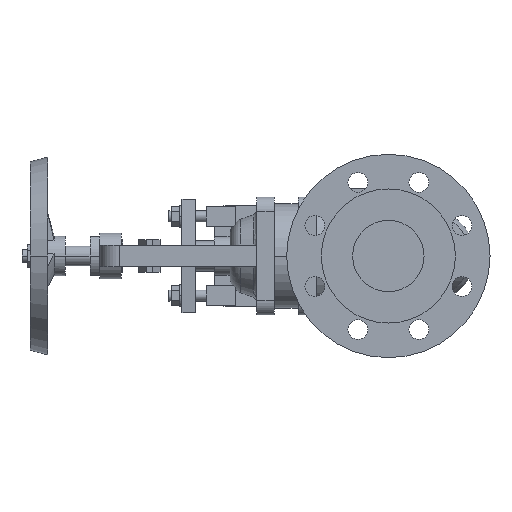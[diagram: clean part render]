
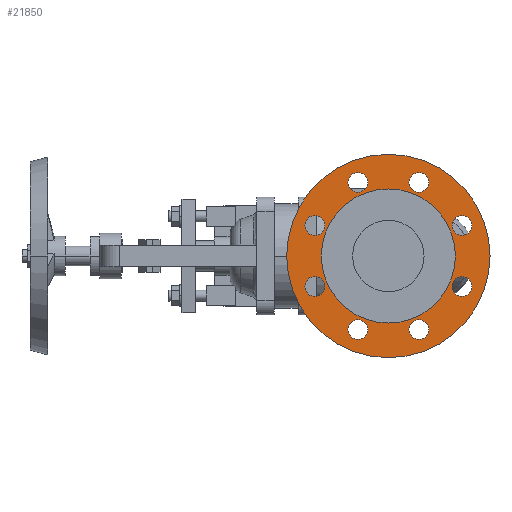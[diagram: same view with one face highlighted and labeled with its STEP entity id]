
A CAD part, left-side view. The second image highlights one B-rep face of the part: STEP entity #21850.
In plain terms, the highlighted planar face has unit normal (-1, 0, 0).
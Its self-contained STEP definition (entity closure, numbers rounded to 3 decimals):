
#11000=CARTESIAN_POINT('',(4.3,0.,-92.5));
#11010=VERTEX_POINT('',#11000);
#11170=CARTESIAN_POINT('',(4.3,0.,92.5));
#11180=VERTEX_POINT('',#11170);
#11210=CARTESIAN_POINT('',(4.3,0.,0.));
#11220=DIRECTION('',(1.,0.,0.));
#11230=DIRECTION('',(0.,0.,-1.));
#11240=AXIS2_PLACEMENT_3D('',#11210,#11220,#11230);
#11250=CIRCLE('',#11240,92.5);
#11260=CARTESIAN_POINT('',(4.3,92.5,0.));
#11270=VERTEX_POINT('',#11260);
#11280=EDGE_CURVE('',#11270,#11180,#11250,.T.);
#11300=EDGE_CURVE('',#11010,#11270,#11250,.T.);
#11530=CARTESIAN_POINT('',(4.3,27.745,
-75.981));
#11540=VERTEX_POINT('',#11530);
#11570=CARTESIAN_POINT('',(4.3,27.745,
-66.981));
#11580=DIRECTION('',(-1.,0.,0.));
#11590=DIRECTION('',(0.,0.,-1.));
#11600=AXIS2_PLACEMENT_3D('',#11570,#11580,#11590);
#11610=CIRCLE('',#11600,9.);
#11620=CARTESIAN_POINT('',(4.3,27.745,
-57.981));
#11630=VERTEX_POINT('',#11620);
#11640=EDGE_CURVE('',#11630,#11540,#11610,.T.);
#12020=CARTESIAN_POINT('',(4.3,-27.745,
-57.981));
#12030=VERTEX_POINT('',#12020);
#12060=CARTESIAN_POINT('',(4.3,-27.745,
-66.981));
#12070=DIRECTION('',(-1.,0.,0.));
#12080=DIRECTION('',(0.,0.,-1.));
#12090=AXIS2_PLACEMENT_3D('',#12060,#12070,#12080);
#12100=CIRCLE('',#12090,9.);
#12110=CARTESIAN_POINT('',(4.3,-27.745,
-75.981));
#12120=VERTEX_POINT('',#12110);
#12130=EDGE_CURVE('',#12120,#12030,#12100,.T.);
#12510=CARTESIAN_POINT('',(4.3,66.981,
-36.745));
#12520=VERTEX_POINT('',#12510);
#12680=CARTESIAN_POINT('',(4.3,66.981,
-18.745));
#12690=VERTEX_POINT('',#12680);
#12720=CARTESIAN_POINT('',(4.3,66.981,
-27.745));
#12730=DIRECTION('',(-1.,0.,0.));
#12740=DIRECTION('',(0.,0.,-1.));
#12750=AXIS2_PLACEMENT_3D('',#12720,#12730,#12740);
#12760=CIRCLE('',#12750,9.);
#12770=EDGE_CURVE('',#12520,#12690,#12760,.T.);
#13000=CARTESIAN_POINT('',(4.3,-66.981,
-36.745));
#13010=VERTEX_POINT('',#13000);
#13040=CARTESIAN_POINT('',(4.3,-66.981,
-27.745));
#13050=DIRECTION('',(-1.,0.,0.));
#13060=DIRECTION('',(0.,0.,-1.));
#13070=AXIS2_PLACEMENT_3D('',#13040,#13050,#13060);
#13080=CIRCLE('',#13070,9.);
#13090=CARTESIAN_POINT('',(4.3,-66.981,
-18.745));
#13100=VERTEX_POINT('',#13090);
#13110=EDGE_CURVE('',#13100,#13010,#13080,.T.);
#13490=CARTESIAN_POINT('',(4.3,66.981,
36.745));
#13500=VERTEX_POINT('',#13490);
#13660=CARTESIAN_POINT('',(4.3,66.981,
18.745));
#13670=VERTEX_POINT('',#13660);
#13700=CARTESIAN_POINT('',(4.3,66.981,
27.745));
#13710=DIRECTION('',(-1.,0.,0.));
#13720=DIRECTION('',(0.,0.,-1.));
#13730=AXIS2_PLACEMENT_3D('',#13700,#13710,#13720);
#13740=CIRCLE('',#13730,9.);
#13750=EDGE_CURVE('',#13500,#13670,#13740,.T.);
#13980=CARTESIAN_POINT('',(4.3,-66.981,
36.745));
#13990=VERTEX_POINT('',#13980);
#14150=CARTESIAN_POINT('',(4.3,-66.981,
18.745));
#14160=VERTEX_POINT('',#14150);
#14190=CARTESIAN_POINT('',(4.3,-66.981,
27.745));
#14200=DIRECTION('',(-1.,0.,0.));
#14210=DIRECTION('',(0.,0.,-1.));
#14220=AXIS2_PLACEMENT_3D('',#14190,#14200,#14210);
#14230=CIRCLE('',#14220,9.);
#14240=EDGE_CURVE('',#13990,#14160,#14230,.T.);
#14470=CARTESIAN_POINT('',(4.3,27.745,
75.981));
#14480=VERTEX_POINT('',#14470);
#14640=CARTESIAN_POINT('',(4.3,27.745,
57.981));
#14650=VERTEX_POINT('',#14640);
#14680=CARTESIAN_POINT('',(4.3,27.745,
66.981));
#14690=DIRECTION('',(-1.,0.,0.));
#14700=DIRECTION('',(0.,0.,-1.));
#14710=AXIS2_PLACEMENT_3D('',#14680,#14690,#14700);
#14720=CIRCLE('',#14710,9.);
#14730=EDGE_CURVE('',#14480,#14650,#14720,.T.);
#14960=CARTESIAN_POINT('',(4.3,-27.745,
75.981));
#14970=VERTEX_POINT('',#14960);
#15130=CARTESIAN_POINT('',(4.3,-27.745,
57.981));
#15140=VERTEX_POINT('',#15130);
#15170=CARTESIAN_POINT('',(4.3,-27.745,
66.981));
#15180=DIRECTION('',(-1.,0.,0.));
#15190=DIRECTION('',(0.,0.,-1.));
#15200=AXIS2_PLACEMENT_3D('',#15170,#15180,#15190);
#15210=CIRCLE('',#15200,9.);
#15220=EDGE_CURVE('',#14970,#15140,#15210,.T.);
#15450=CARTESIAN_POINT('',(4.3,-61.,0.));
#15460=VERTEX_POINT('',#15450);
#15490=CARTESIAN_POINT('',(4.3,0.,0.));
#15500=DIRECTION('',(-1.,0.,0.));
#15510=DIRECTION('',(0.,1.,0.));
#15520=AXIS2_PLACEMENT_3D('',#15490,#15500,#15510);
#15530=CIRCLE('',#15520,61.);
#15540=CARTESIAN_POINT('',(4.3,61.,0.));
#15550=VERTEX_POINT('',#15540);
#15560=EDGE_CURVE('',#15550,#15460,#15530,.T.);
#21290=CARTESIAN_POINT('',(4.3,76.75,0.)
);
#21300=DIRECTION('',(1.,0.,0.));
#21310=DIRECTION('',(0.,-1.,0.));
#21320=AXIS2_PLACEMENT_3D('',#21290,#21300,#21310);
#21330=PLANE('',#21320);
#21340=ORIENTED_EDGE('',*,*,#15560,.F.);
#21350=EDGE_CURVE('',#15460,#15550,#15530,.T.);
#21360=ORIENTED_EDGE('',*,*,#21350,.F.);
#21370=EDGE_LOOP('',(#21360,#21340));
#21380=FACE_BOUND('',#21370,.T.);
#21390=ORIENTED_EDGE('',*,*,#11280,.F.);
#21400=EDGE_CURVE('',#11180,#11010,#11250,.T.);
#21410=ORIENTED_EDGE('',*,*,#21400,.F.);
#21420=ORIENTED_EDGE('',*,*,#11300,.F.);
#21430=EDGE_LOOP('',(#21420,#21410,#21390));
#21440=FACE_OUTER_BOUND('',#21430,.T.);
#21450=EDGE_CURVE('',#11540,#11630,#11610,.T.);
#21460=ORIENTED_EDGE('',*,*,#21450,.F.);
#21470=ORIENTED_EDGE('',*,*,#11640,.F.);
#21480=EDGE_LOOP('',(#21470,#21460));
#21490=FACE_BOUND('',#21480,.T.);
#21500=EDGE_CURVE('',#12030,#12120,#12100,.T.);
#21510=ORIENTED_EDGE('',*,*,#21500,.F.);
#21520=ORIENTED_EDGE('',*,*,#12130,.F.);
#21530=EDGE_LOOP('',(#21520,#21510));
#21540=FACE_BOUND('',#21530,.T.);
#21550=EDGE_CURVE('',#12690,#12520,#12760,.T.);
#21560=ORIENTED_EDGE('',*,*,#21550,.F.);
#21570=ORIENTED_EDGE('',*,*,#12770,.F.);
#21580=EDGE_LOOP('',(#21570,#21560));
#21590=FACE_BOUND('',#21580,.T.);
#21600=EDGE_CURVE('',#13010,#13100,#13080,.T.);
#21610=ORIENTED_EDGE('',*,*,#21600,.F.);
#21620=ORIENTED_EDGE('',*,*,#13110,.F.);
#21630=EDGE_LOOP('',(#21620,#21610));
#21640=FACE_BOUND('',#21630,.T.);
#21650=EDGE_CURVE('',#13670,#13500,#13740,.T.);
#21660=ORIENTED_EDGE('',*,*,#21650,.F.);
#21670=ORIENTED_EDGE('',*,*,#13750,.F.);
#21680=EDGE_LOOP('',(#21670,#21660));
#21690=FACE_BOUND('',#21680,.T.);
#21700=EDGE_CURVE('',#14160,#13990,#14230,.T.);
#21710=ORIENTED_EDGE('',*,*,#21700,.F.);
#21720=ORIENTED_EDGE('',*,*,#14240,.F.);
#21730=EDGE_LOOP('',(#21720,#21710));
#21740=FACE_BOUND('',#21730,.T.);
#21750=EDGE_CURVE('',#14650,#14480,#14720,.T.);
#21760=ORIENTED_EDGE('',*,*,#21750,.F.);
#21770=ORIENTED_EDGE('',*,*,#14730,.F.);
#21780=EDGE_LOOP('',(#21770,#21760));
#21790=FACE_BOUND('',#21780,.T.);
#21800=EDGE_CURVE('',#15140,#14970,#15210,.T.);
#21810=ORIENTED_EDGE('',*,*,#21800,.F.);
#21820=ORIENTED_EDGE('',*,*,#15220,.F.);
#21830=EDGE_LOOP('',(#21820,#21810));
#21840=FACE_BOUND('',#21830,.T.);
#21850=ADVANCED_FACE('',(#21380,#21440,#21490,#21540,#21590,#21640,
#21690,#21740,#21790,#21840),#21330,.F.);
